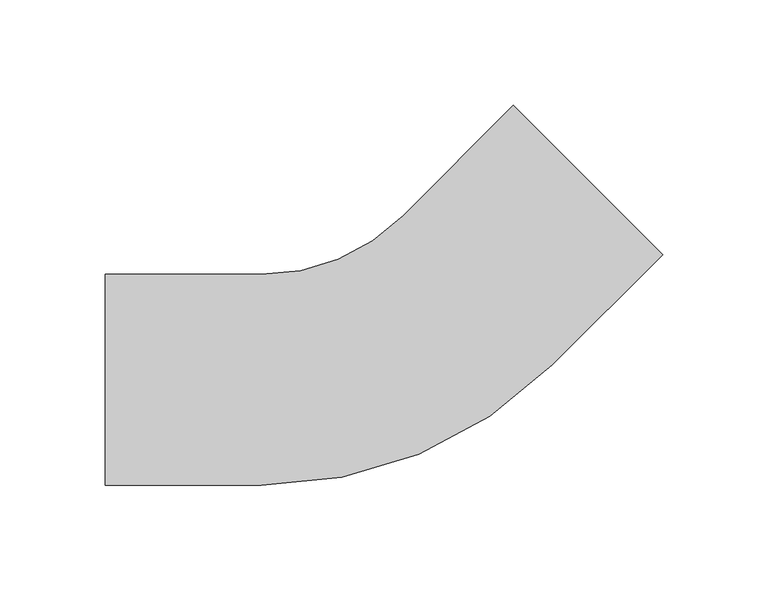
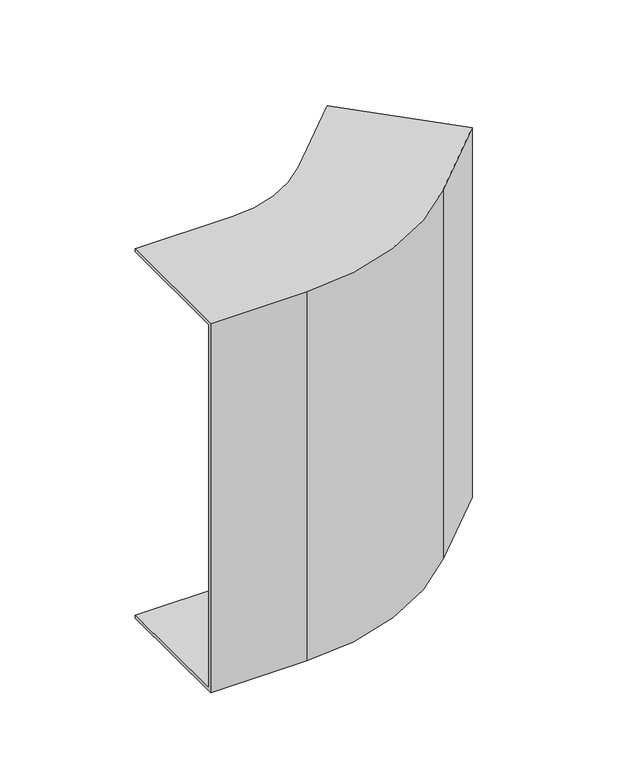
"""IFC4 building model written with IfcOpenShell, lengths in millimetres: cable carrier fitting geometry, BAKS_KK_Vertical bend EXTERNAL_LU : LUMNJ_H100."""

import ifcopenshell
import ifcopenshell.guid

model = None  # the IFC model being written
_history = None  # IfcOwnerHistory: only IFC2X3 demands one
_inside = {}  # id of a spatial element -> (the spatial element, [elements in it])
_under = {}  # id of a project, library or spatial element -> (it, [spatial elements below it])
_declared = {}  # id of a project -> (the project, [libraries it declares])
_typed = {}  # id of a type object -> (the type object, [elements of that type])
_made_of = {}  # id of a material, layer set ... -> (it, [elements and type objects made of it])


def new_model(schema):
    """Start an empty IFC model of exactly this schema.

    Asked for "IFC4X3", IfcOpenShell would pick the latest addendum, in which some entities
    have other attributes; the version numbers below select the first issue.
    IFC2X3 requires an IfcOwnerHistory on every rooted entity: one is made here for all.
    """
    global model, _history
    if schema == "IFC4X3":
        model = ifcopenshell.file(schema_version=(4, 3, 0, 0))
    else:
        model = ifcopenshell.file(schema=schema)
    _inside.clear()
    _under.clear()
    _declared.clear()
    _typed.clear()
    _made_of.clear()
    _history = None
    if model.schema == "IFC2X3":
        org = make("IfcOrganization", Name="unknown")
        user = make(
            "IfcPersonAndOrganization",
            ThePerson=make("IfcPerson", FamilyName="unknown"),
            TheOrganization=org,
        )
        app = make(
            "IfcApplication",
            ApplicationDeveloper=org,
            Version="unknown",
            ApplicationFullName="unknown",
            ApplicationIdentifier="unknown",
        )
        _history = make(
            "IfcOwnerHistory",
            OwningUser=user,
            OwningApplication=app,
            ChangeAction="ADDED",
            CreationDate=0,
        )
    return model


def make(cls, **values):
    """One entity of the class cls with the attributes given. An attribute that is None is left unset."""
    return model.create_entity(
        cls, **{name: value for name, value in values.items() if value is not None}
    )


def rooted(cls, **values):
    """An entity with a GlobalId (a new one), such as an element, a storey or a relation."""
    return make(cls, GlobalId=ifcopenshell.guid.new(), OwnerHistory=_history, **values)


def si_unit(unit_type, name, prefix=None):
    """IfcSIUnit, for example si_unit("LENGTHUNIT", "METRE", prefix="MILLI")."""
    return make("IfcSIUnit", UnitType=unit_type, Prefix=prefix, Name=name)


def assignment(units):
    """IfcUnitAssignment: the units of a project."""
    return None if units is None else make("IfcUnitAssignment", Units=units)


def point(xyz):
    """IfcCartesianPoint."""
    return None if xyz is None else make("IfcCartesianPoint", Coordinates=xyz)


def direction(xyz):
    """IfcDirection."""
    return None if xyz is None else make("IfcDirection", DirectionRatios=xyz)


def frame(location, z_axis=None, x_axis=None):
    """IfcAxis2Placement3D, a coordinate frame: its origin and axes. An axis left out is left unset."""
    return make(
        "IfcAxis2Placement3D",
        Location=point(location),
        Axis=direction(z_axis),
        RefDirection=direction(x_axis),
    )


def origin():
    """The frame at (0, 0, 0) with its axes left unset."""
    return frame((0.0, 0.0, 0.0))


def place(relative_to, where):
    """IfcLocalPlacement: puts the frame where relative to a parent placement (None: the world)."""
    return make(
        "IfcLocalPlacement", PlacementRelTo=relative_to, RelativePlacement=where
    )


def context(
    kind, dimensions, precision=None, world=None, true_north=None, identifier=None
):
    """IfcGeometricRepresentationContext, for example the 3D "Model" context."""
    return make(
        "IfcGeometricRepresentationContext",
        ContextIdentifier=identifier,
        ContextType=kind,
        CoordinateSpaceDimension=dimensions,
        Precision=precision,
        WorldCoordinateSystem=world,
        TrueNorth=true_north,
    )


def project(units=None, contexts=None):
    """IfcProject with its units and contexts."""
    return rooted(
        "IfcProject",
        Name="project",
        RepresentationContexts=contexts,
        UnitsInContext=assignment(units),
    )


def spatial(cls, under=None, at=None, **own):
    """A site, building, storey or space (cls), placed at a placement, below another one or the project."""
    s = rooted(cls, ObjectPlacement=at, **own)
    if under is not None:
        _under.setdefault(under.id(), (under, []))[1].append(s)
    return s


def polyline(points):
    """IfcPolyline through the points."""
    return make("IfcPolyline", Points=[point(p) for p in points])


def circle_curve(where, radius):
    """IfcCircle in the frame where."""
    return make("IfcCircle", Position=where, Radius=radius)


def shape(context_of_items, identifier, shape_type, items):
    """IfcShapeRepresentation: the items that make up one representation, for example the "Body"."""
    return make(
        "IfcShapeRepresentation",
        ContextOfItems=context_of_items,
        RepresentationIdentifier=identifier,
        RepresentationType=shape_type,
        Items=items,
    )


def source(mapping_origin, context_of_items, identifier, shape_type, items):
    """IfcRepresentationMap: a shape defined once, which mapped items show again and again."""
    return make(
        "IfcRepresentationMap",
        MappingOrigin=mapping_origin,
        MappedRepresentation=shape(context_of_items, identifier, shape_type, items),
    )


def transform(
    local_origin,
    x_axis=None,
    y_axis=None,
    z_axis=None,
    scale=None,
    scale2=None,
    scale3=None,
    uniform=True,
):
    """IfcCartesianTransformationOperator3D, or its non-uniform kind. x_axis, y_axis, z_axis: its Axis1, 2, 3."""
    if uniform:
        return make(
            "IfcCartesianTransformationOperator3D",
            Axis1=direction(x_axis),
            Axis2=direction(y_axis),
            LocalOrigin=point(local_origin),
            Scale=scale,
            Axis3=direction(z_axis),
        )
    return make(
        "IfcCartesianTransformationOperator3DnonUniform",
        Axis1=direction(x_axis),
        Axis2=direction(y_axis),
        LocalOrigin=point(local_origin),
        Scale=scale,
        Axis3=direction(z_axis),
        Scale2=scale2,
        Scale3=scale3,
    )


def mapped(mapping_source, mapping_target):
    """IfcMappedItem: shows the shape of a source again, moved by a transform."""
    return make(
        "IfcMappedItem", MappingSource=mapping_source, MappingTarget=mapping_target
    )


def made_of(thing, what):
    """Note that an element or type object is made of a material, layer set ...; save() writes the relation."""
    if what is not None:
        _made_of.setdefault(what.id(), (what, []))[1].append(thing)
    return thing


def element(
    cls,
    number,
    at=None,
    inside=None,
    cuts=None,
    type_object=None,
    material=None,
    context=None,
    identifier="Body",
    shape_type=None,
    held_by="IfcProductDefinitionShape",
    body=None,
    shapes=None,
    **own,
):
    """One element of the class cls, such as IfcWall. Its Tag is "e" and its number.

    at: its placement. inside: the storey or other place that contains it. cuts: it is an
    opening in that element (IfcRelVoidsElement). A single representation is given by context,
    identifier, shape_type and body (its items); several are given by shapes. held_by: the class
    of the entity that holds the representations. save() writes the other relations.
    """
    e = rooted(cls, Tag="e%d" % number, ObjectPlacement=at, **own)
    if body is not None:
        shapes = [shape(context, identifier, shape_type, body)]
    if shapes is not None:
        e.Representation = make(held_by, Representations=shapes)
    if inside is not None:
        _inside.setdefault(inside.id(), (inside, []))[1].append(e)
    if cuts is not None:
        rooted(
            "IfcRelVoidsElement", RelatingBuildingElement=cuts, RelatedOpeningElement=e
        )
    if type_object is not None:
        _typed.setdefault(type_object.id(), (type_object, []))[1].append(e)
    return made_of(e, material)


def aggregate(whole, parts):
    """IfcRelAggregates: a whole, such as a stair, and the parts it consists of."""
    return rooted("IfcRelAggregates", RelatingObject=whole, RelatedObjects=parts)


def save(model, path):
    """Write the relations noted so far, then the file.

    IfcRelAggregates (storeys below a building ...), IfcRelContainedInSpatialStructure (elements
    in a storey), IfcRelDefinesByType, IfcRelAssociatesMaterial and IfcRelDeclares: one each for
    every whole, place, type object, material and project.
    """
    for whole, parts in _under.values():
        aggregate(whole, parts)
    for where, things in _inside.values():
        rooted(
            "IfcRelContainedInSpatialStructure",
            RelatedElements=things,
            RelatingStructure=where,
        )
    for kind, things in _typed.values():
        rooted("IfcRelDefinesByType", RelatedObjects=things, RelatingType=kind)
    for what, things in _made_of.values():
        rooted("IfcRelAssociatesMaterial", RelatedObjects=things, RelatingMaterial=what)
    for by, libraries in _declared.values():
        rooted("IfcRelDeclares", RelatingContext=by, RelatedDefinitions=libraries)
    model.write(path)


def plane_surface(at):
    """IfcPlane: the flat surface through the origin of the frame at, square to its z axis."""
    return make("IfcPlane", Position=at)


def cylinder_surface(at, radius):
    """IfcCylindricalSurface: all points at the distance radius from the z axis of the frame at."""
    return make("IfcCylindricalSurface", Position=at, Radius=radius)


def revolved_surface(curve, axis_point, axis_direction):
    """IfcSurfaceOfRevolution: the curve turned about the line through axis_point along axis_direction."""
    return make(
        "IfcSurfaceOfRevolution",
        SweptCurve=make("IfcArbitraryOpenProfileDef", ProfileType="CURVE", Curve=curve),
        AxisPosition=make("IfcAxis1Placement", Location=point(axis_point), Axis=direction(axis_direction)),
    )


def advanced_brep(points, edges, surfaces, faces):
    """IfcAdvancedBrep: a solid bounded by faces that lie on surfaces and meet in shared edges.

    An edge is (start, end): straight between two places in points (the first is 0);
    or (start, end, curve); or (start, end, curve, False) where it runs against its curve.
    A face is (place in surfaces, loops), or (place, loops, False) where it looks against
    its surface's normal. A loop lists edges by number (the first is 1), with a minus sign
    where the edge is run from its end to its start. The first loop is the outer one.
    """
    corners = [point(p) for p in points]
    vertices = [make("IfcVertexPoint", VertexGeometry=c) for c in corners]
    made = []
    for start, end, *more in edges:
        made.append(
            make(
                "IfcEdgeCurve",
                EdgeStart=vertices[start],
                EdgeEnd=vertices[end],
                EdgeGeometry=more[0] if more else make("IfcPolyline", Points=[corners[start], corners[end]]),
                SameSense=more[1] if len(more) > 1 else True,
            )
        )
    hull = []
    for where, loops, *sense in faces:
        bounds = []
        for j, loop in enumerate(loops):
            ring = [make("IfcOrientedEdge", EdgeElement=made[abs(k) - 1], Orientation=k > 0) for k in loop]
            bounds.append(
                make(
                    "IfcFaceOuterBound" if j == 0 else "IfcFaceBound",
                    Bound=make("IfcEdgeLoop", EdgeList=ring),
                    Orientation=True,
                )
            )
        hull.append(make("IfcAdvancedFace", Bounds=bounds, FaceSurface=surfaces[where], SameSense=sense[0] if sense else True))
    return make("IfcAdvancedBrep", Outer=make("IfcClosedShell", CfsFaces=hull))


def cable_carrier_fitting_851eb94e(model_context):
    return source(origin(), model_context, "Body", "AdvancedBrep", [
        advanced_brep(
        [(-134.0609665, 50.0, 150.0), (-134.0609665, 50.0, 147.46), (-134.0609665, -47.46, 147.46), (-134.0609665, -47.46, -147.46), (-134.0609665, 50.0, -147.46), (-134.0609665, 50.0, -150.0), (-134.0609665, -50.0, -150.0), (-134.0609665, -50.0, 150.0), (59.4400795, 130.1507576, 150.0), (130.1507576, 59.4400795, 150.0), (130.1507576, 59.4400795, -150.0), (59.4400795, 130.1507576, -150.0), (59.4400795, 130.1507576, -147.46), (128.3547064, 61.2361307, -147.46), (128.3547064, 61.2361307, 147.46), (59.4400795, 130.1507576, 147.46), (-60.0609665, -50.0, 150.0), (77.8248558, 7.1141777, 150.0), (7.1141777, 77.8248558, 150.0), (-60.0609665, 50.0, 150.0), (-60.0609665, -50.0, -150.0), (-60.0609665, 50.0, -150.0), (7.1141777, 77.8248558, -150.0), (77.8248558, 7.1141777, -150.0), (-60.0609665, 50.0, -147.46), (-60.0609665, -47.46, -147.46), (76.0288046, 8.9102289, -147.46), (7.1141777, 77.8248558, -147.46), (-60.0609665, -47.46, 147.46), (-60.0609665, 50.0, 147.46), (7.1141777, 77.8248558, 147.46), (76.0288046, 8.9102289, 147.46)],
        [
            (0, 1),
            (1, 2),
            (2, 3),
            (3, 4),
            (4, 5),
            (5, 6),
            (6, 7),
            (7, 0),
            (8, 9),
            (9, 10),
            (10, 11),
            (11, 12),
            (12, 13),
            (13, 14),
            (14, 15),
            (15, 8),
            (7, 16),
            (16, 17, circle_curve(frame((-60.0609665, 145.0, 150.0), z_axis=(0.0, 0.0, 1.0), x_axis=(0.0, -1.0, 0.0)), 195.0)),
            (17, 9),
            (8, 18),
            (18, 19, circle_curve(frame((-60.0609665, 145.0, 150.0), z_axis=(0.0, 0.0, -1.0), x_axis=(0.0, -1.0, 0.0)), 95.0)),
            (19, 0),
            (6, 20),
            (20, 16),
            (5, 21),
            (21, 22, circle_curve(frame((-60.0609665, 145.0, -150.0), z_axis=(0.0, 0.0, 1.0), x_axis=(0.0, -1.0, 0.0)), 95.0)),
            (22, 11),
            (10, 23),
            (23, 20, circle_curve(frame((-60.0609665, 145.0, -150.0), z_axis=(0.0, 0.0, -1.0), x_axis=(0.0, -1.0, 0.0)), 195.0)),
            (4, 24),
            (24, 21),
            (3, 25),
            (25, 26, circle_curve(frame((-60.0609665, 145.0, -147.46), z_axis=(0.0, 0.0, 1.0), x_axis=(0.0, -1.0, 0.0)), 192.46)),
            (26, 13),
            (12, 27),
            (27, 24, circle_curve(frame((-60.0609665, 145.0, -147.46), z_axis=(0.0, 0.0, -1.0), x_axis=(0.0, -1.0, 0.0)), 95.0)),
            (2, 28),
            (28, 25),
            (1, 29),
            (29, 30, circle_curve(frame((-60.0609665, 145.0, 147.46), z_axis=(0.0, 0.0, 1.0), x_axis=(0.0, -1.0, 0.0)), 95.0)),
            (30, 15),
            (14, 31),
            (31, 28, circle_curve(frame((-60.0609665, 145.0, 147.46), z_axis=(0.0, 0.0, -1.0), x_axis=(0.0, -1.0, 0.0)), 192.46)),
            (19, 29),
            (23, 17),
            (27, 22),
            (31, 26),
            (18, 30),
        ],
        [
            plane_surface(frame((-134.0609665, 0.0, 0.0), z_axis=(-1.0, 0.0, 0.0), x_axis=(0.0, 0.0, 1.0))),
            plane_surface(frame((94.7954185, 94.7954185, 0.0), z_axis=(0.7071067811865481, 0.7071067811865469, 0.0), x_axis=(0.0, 0.0, 1.0))),
            plane_surface(frame((-134.0609665, -50.0, 150.0), z_axis=(0.0, 0.0, 1.0), x_axis=(1.0, 0.0, 0.0))),
            plane_surface(frame((-134.0609665, -50.0, -150.0), z_axis=(0.0, -1.0, 0.0), x_axis=(1.0, 0.0, 0.0))),
            plane_surface(frame((-134.0609665, 50.0, -150.0), z_axis=(0.0, 0.0, -1.0), x_axis=(1.0, 0.0, 0.0))),
            plane_surface(frame((-134.0609665, 50.0, -147.46), z_axis=(0.0, 1.0, 0.0), x_axis=(1.0, 0.0, 0.0))),
            plane_surface(frame((-134.0609665, -47.46, -147.46), z_axis=(0.0, 0.0, 1.0), x_axis=(1.0, 0.0, 0.0))),
            plane_surface(frame((-134.0609665, -47.46, 147.46), z_axis=(0.0, 1.0, 0.0), x_axis=(1.0, 0.0, 0.0))),
            plane_surface(frame((-134.0609665, 50.0, 147.46), z_axis=(0.0, 0.0, -1.0), x_axis=(1.0, 0.0, 0.0))),
            plane_surface(frame((-134.0609665, 50.0, 150.0), z_axis=(0.0, 1.0, 0.0), x_axis=(1.0, 0.0, 0.0))),
            cylinder_surface(frame((-60.0609665, 145.0, 0.0), z_axis=(0.0, 0.0, 1.0), x_axis=(0.0, -1.0, 0.0)), 195.0),
            revolved_surface(polyline([(-60.0609665, 50.0, -147.46), (-60.0609665, 50.0, -150.0)]), (-60.0609665, 145.0, 0.0), (0.0, 0.0, 1.0)),
            revolved_surface(polyline([(-60.0609665, -47.46000000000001, 147.46), (-60.0609665, -47.46000000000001, -147.46)]), (-60.0609665, 145.0, 0.0), (0.0, 0.0, 1.0)),
            revolved_surface(polyline([(-60.0609665, 50.0, 150.0), (-60.0609665, 50.0, 147.46)]), (-60.0609665, 145.0, 0.0), (0.0, 0.0, 1.0)),
            plane_surface(frame((77.8248558, 7.1141777, -150.0), z_axis=(0.707106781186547, -0.7071067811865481, 0.0), x_axis=(0.7071067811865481, 0.707106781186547, 0.0))),
            plane_surface(frame((7.1141777, 77.8248558, -147.46), z_axis=(-0.7071067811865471, 0.7071067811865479, 0.0), x_axis=(0.7071067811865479, 0.7071067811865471, 0.0))),
            plane_surface(frame((76.0288046, 8.9102289, 147.46), z_axis=(-0.707106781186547, 0.7071067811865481, 0.0), x_axis=(0.7071067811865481, 0.707106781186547, 0.0))),
            plane_surface(frame((7.1141777, 77.8248558, 150.0), z_axis=(-0.7071067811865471, 0.7071067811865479, 0.0), x_axis=(0.7071067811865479, 0.7071067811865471, 0.0))),
        ],
        [
            (0, [[1, 2, 3, 4, 5, 6, 7, 8]]),
            (1, [[9, 10, 11, 12, 13, 14, 15, 16]]),
            (2, [[-8, 17, 18, 19, -9, 20, 21, 22]]),
            (3, [[-7, 23, 24, -17]]),
            (4, [[-6, 25, 26, 27, -11, 28, 29, -23]]),
            (5, [[-5, 30, 31, -25]]),
            (6, [[-4, 32, 33, 34, -13, 35, 36, -30]]),
            (7, [[-3, 37, 38, -32]]),
            (8, [[-2, 39, 40, 41, -15, 42, 43, -37]]),
            (9, [[-1, -22, 44, -39]]),
            (10, [[-18, -24, -29, 45]]),
            (11, [[-26, -31, -36, 46]]),
            (12, [[-33, -38, -43, 47]]),
            (13, [[-40, -44, -21, 48]]),
            (14, [[-45, -28, -10, -19]]),
            (15, [[-46, -35, -12, -27]]),
            (16, [[-47, -42, -14, -34]]),
            (17, [[-48, -20, -16, -41]]),
        ],
    ),
    ])


if __name__ == "__main__":
    model = new_model("IFC4")
    model_context = context("Model", 3, world=origin())
    ifc_project = project(units=[si_unit("LENGTHUNIT", "METRE", prefix="MILLI")], contexts=[model_context])
    site = spatial("IfcSite", under=ifc_project)
    building = spatial("IfcBuilding", under=site)
    placement = place(None, origin())
    cable_carrier_fitting_shape = cable_carrier_fitting_851eb94e(model_context)
    element("IfcCableCarrierFitting", 1, ObjectType="BAKS_KK_Vertical bend EXTERNAL_LU : LUMNJ_H100", at=placement, inside=building, context=model_context, shape_type="MappedRepresentation", body=[
        mapped(cable_carrier_fitting_shape, transform((0.0, 0.0, 0.0), x_axis=(1.0, 0.0, 0.0), y_axis=(0.0, 1.0, 0.0), z_axis=(0.0, 0.0, 1.0))),
    ])
    save(model, "model.ifc")
